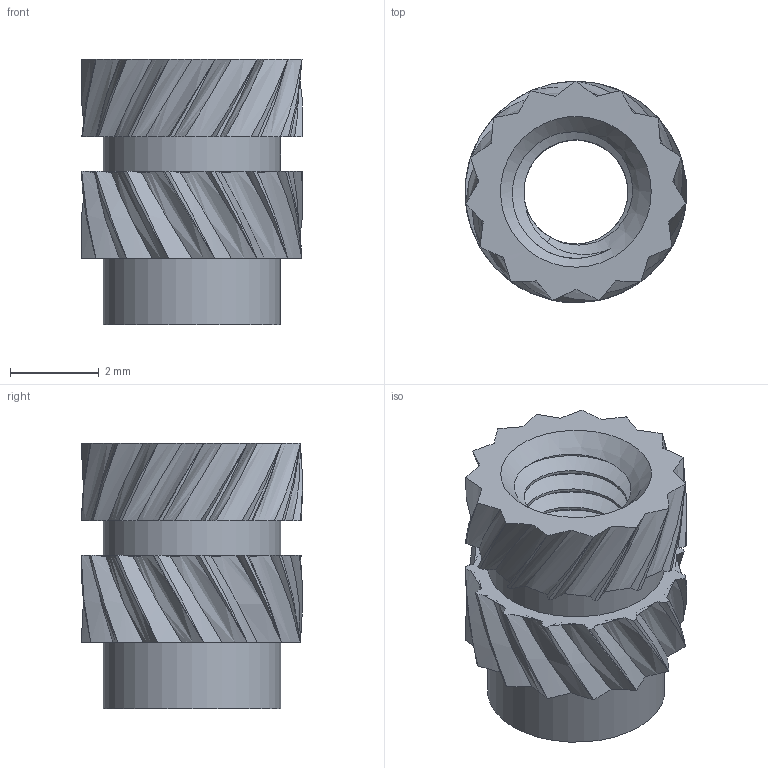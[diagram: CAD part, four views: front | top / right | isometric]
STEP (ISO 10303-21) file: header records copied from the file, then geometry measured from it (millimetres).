
FILE_DESCRIPTION(/* description */ ('STEP AP242 Edition 2','CAx-IF Rec.Pracs.---Representation and Presentation of Product Manufacturing Information (PMI)---4.0---2014-10-13','CAx-IF Rec.Pracs.---3D Tessellated Geometry---0.4---2014-09-14','2;1','CAx-IF Rec.Pracs.---User Defined Attributes---1.5---2016-08-15'),/* implementation_level */ '2;1');
FILE_NAME(/* name */ 'a0d216e0-81df-41f6-9c25-3d0fc5740b44',/* time_stamp */ '2026-09-28T10:12:44Z',/* author */ (''),/* organization */ (''),/* preprocessor_version */ 'ST-DEVELOPER v20',/* originating_system */ 'ONSHAPE BY PTC INC, 1.221',/* authorisation */ ' ');
FILE_SCHEMA (('AP242_MANAGED_MODEL_BASED_3D_ENGINEERING_MIM_LF { 1 0 10303 442 3 1 4 }'));
Length unit declared in the file: metre
Products named in the file (1): insert_M3_D5_L5 v1:1__Körper1
Bounding box: 4.99 x 5 x 6 mm (x, y, z)
Volume: 56.2 mm3; surface area: 211.3 mm2
Topology: 1 solids, 1 shells, 150 faces, 419 edges, 274 vertices
Faces by surface type: cylinder 79, sphere 45, plane 20, cone 4, bspline 2
Full cylindrical faces by diameter (mm): 4 x2
Entity records: 7048 total; most frequent: CARTESIAN_POINT 3387, ORIENTED_EDGE 814, DIRECTION 749, EDGE_CURVE 407, AXIS2_PLACEMENT_3D 367, VERTEX_POINT 268, B_SPLINE_CURVE_WITH_KNOTS 172, EDGE_LOOP 157
